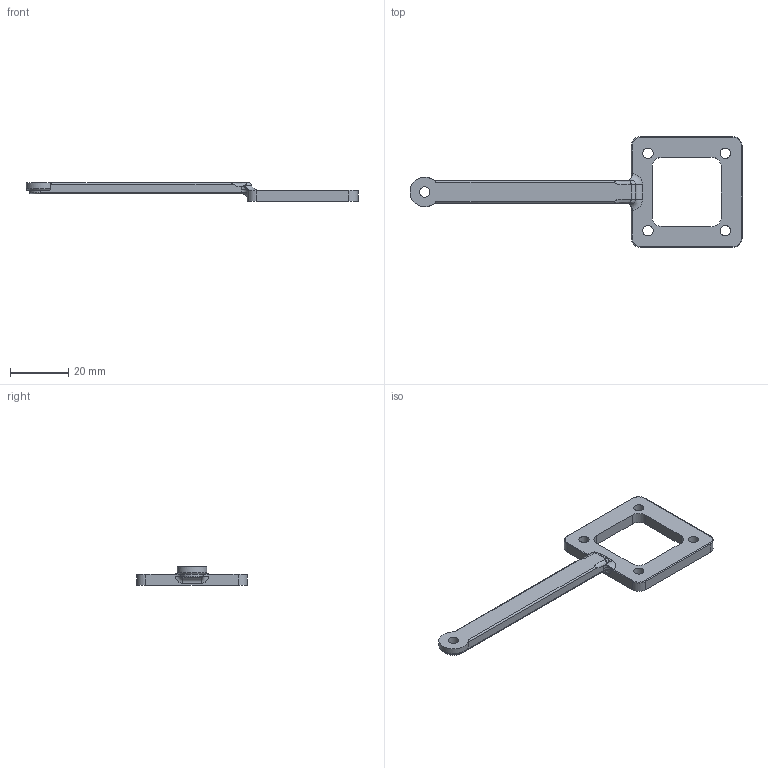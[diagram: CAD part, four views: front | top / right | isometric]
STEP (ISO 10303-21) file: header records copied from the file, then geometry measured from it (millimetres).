
FILE_DESCRIPTION(/* description */ (''),/* implementation_level */ '2;1');
FILE_NAME(/* name */ 'E:\eight way toy\Handle.stp',/* time_stamp */ '2014-05-22T07:51:46-04:00',/* author */ ('PLTW'),/* organization */ (''),/* preprocessor_version */ 'ST-DEVELOPER v15.2',/* originating_system */ 'Autodesk Inventor 2014',/* authorisation */ '');
FILE_SCHEMA (('AUTOMOTIVE_DESIGN { 1 0 10303 214 3 1 1 }'));
Length unit declared in the file: inch
Products named in the file (1): Handle
Bounding box: 114.3 x 38.1 x 6.35 mm (x, y, z)
Volume: 5419.8 mm3; surface area: 4472.1 mm2
Topology: 1 solids, 1 shells, 78 faces, 197 edges, 120 vertices
Faces by surface type: cylinder 31, bspline 22, plane 15, torus 10
Full cylindrical faces by diameter (mm): 3.556 x5
Entity records: 2873 total; most frequent: CARTESIAN_POINT 1069, ORIENTED_EDGE 382, DIRECTION 345, EDGE_CURVE 191, AXIS2_PLACEMENT_3D 141, VERTEX_POINT 120, EDGE_LOOP 95, CIRCLE 84
